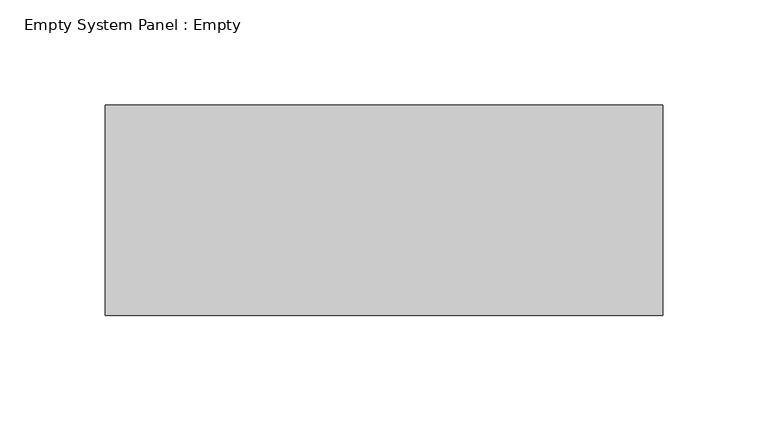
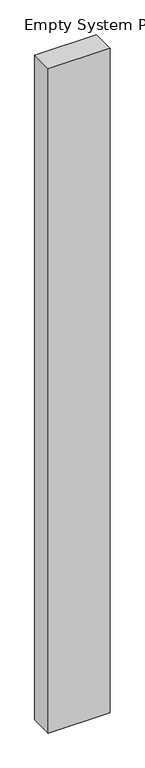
"""IFC4 building model written with IfcOpenShell, lengths in millimetres: plate geometry, Empty System Panel : Empty."""

from ifc_helpers import new_model, si_unit, origin, origin_with_axes, place, context, project, spatial, polyline, outline, extrude, source, transform, mapped, element, save


def empty_system_panel_empty_de177b29(model_context):
    return source(origin(), model_context, "Body", "SweptSolid", [
        extrude(outline(polyline([(132.3223305, -50.0), (-132.3223305, -50.0), (-132.3223305, 50.0), (132.3223305, 50.0), (132.3223305, -50.0)])), origin_with_axes(), (0.0, 0.0, 1.0), 3000.0),
    ])


if __name__ == "__main__":
    model = new_model("IFC4")
    model_context = context("Model", 3, world=origin())
    ifc_project = project(units=[si_unit("LENGTHUNIT", "METRE", prefix="MILLI")], contexts=[model_context])
    site = spatial("IfcSite", under=ifc_project)
    building = spatial("IfcBuilding", under=site)
    placement = place(None, origin())
    empty_system_panel_empty_shape = empty_system_panel_empty_de177b29(model_context)
    element("IfcPlate", 1, ObjectType="Empty System Panel : Empty", at=placement, inside=building, context=model_context, shape_type="MappedRepresentation", body=[
        mapped(empty_system_panel_empty_shape, transform((0.0, 0.0, 0.0), x_axis=(1.0, 0.0, 0.0), y_axis=(0.0, 1.0, 0.0), z_axis=(0.0, 0.0, 1.0))),
    ])
    save(model, "model.ifc")
